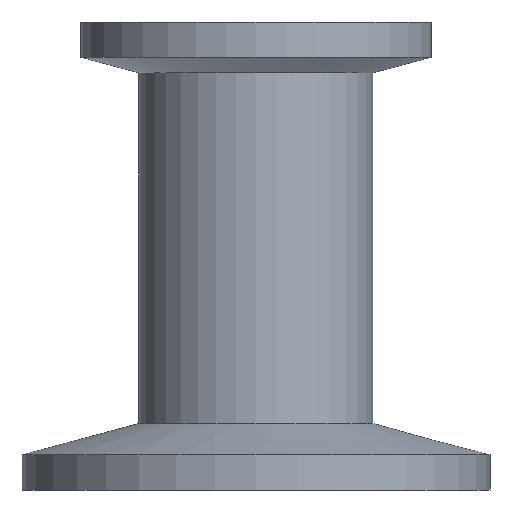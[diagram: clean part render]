
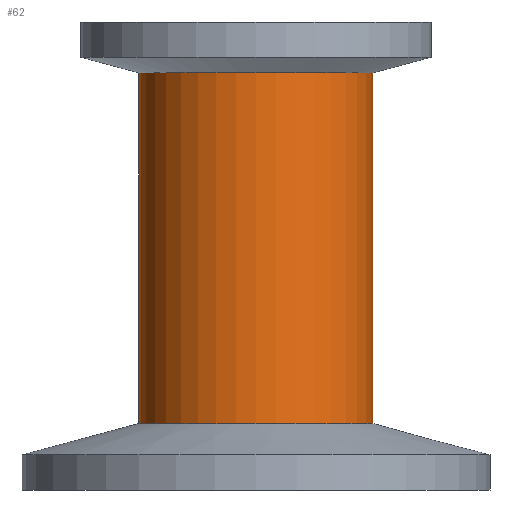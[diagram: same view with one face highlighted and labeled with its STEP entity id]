
A CAD part, front view. The second image highlights one B-rep face of the part: STEP entity #62.
In plain terms, the highlighted cylindrical face has radius 10 mm (diameter 20 mm), a full revolution.
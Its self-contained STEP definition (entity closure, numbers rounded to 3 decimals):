
#62 = ADVANCED_FACE( '', ( #131, #132 ), #133, .T. );
#131 = FACE_OUTER_BOUND( '', #194, .T. );
#132 = FACE_OUTER_BOUND( '', #195, .T. );
#133 = CYLINDRICAL_SURFACE( '', #196, 10. );
#194 = EDGE_LOOP( '', ( #275 ) );
#195 = EDGE_LOOP( '', ( #276 ) );
#196 = AXIS2_PLACEMENT_3D( '', #277, #278, #279 );
#275 = ORIENTED_EDGE( '', *, *, #307, .T. );
#276 = ORIENTED_EDGE( '', *, *, #311, .F. );
#277 = CARTESIAN_POINT( '', ( 0., 0., 54. ) );
#278 = DIRECTION( '', ( 0., 0., 1. ) );
#279 = DIRECTION( '', ( -1., 0., 0. ) );
#307 = EDGE_CURVE( '', #346, #346, #347, .T. );
#311 = EDGE_CURVE( '', #352, #352, #353, .T. );
#346 = VERTEX_POINT( '', #388 );
#347 = CIRCLE( '', #389, 10. );
#352 = VERTEX_POINT( '', #394 );
#353 = CIRCLE( '', #395, 10. );
#388 = CARTESIAN_POINT( '', ( -10., 0., 35.66 ) );
#389 = AXIS2_PLACEMENT_3D( '', #431, #432, #433 );
#394 = CARTESIAN_POINT( '', ( -10., 0., 5.679 ) );
#395 = AXIS2_PLACEMENT_3D( '', #437, #438, #439 );
#431 = CARTESIAN_POINT( '', ( 0., 0., 35.66 ) );
#432 = DIRECTION( '', ( 0., 0., -1. ) );
#433 = DIRECTION( '', ( -1., 0., 0. ) );
#437 = CARTESIAN_POINT( '', ( 0., 0., 5.679 ) );
#438 = DIRECTION( '', ( 0., 0., -1. ) );
#439 = DIRECTION( '', ( -1., 0., 0. ) );
